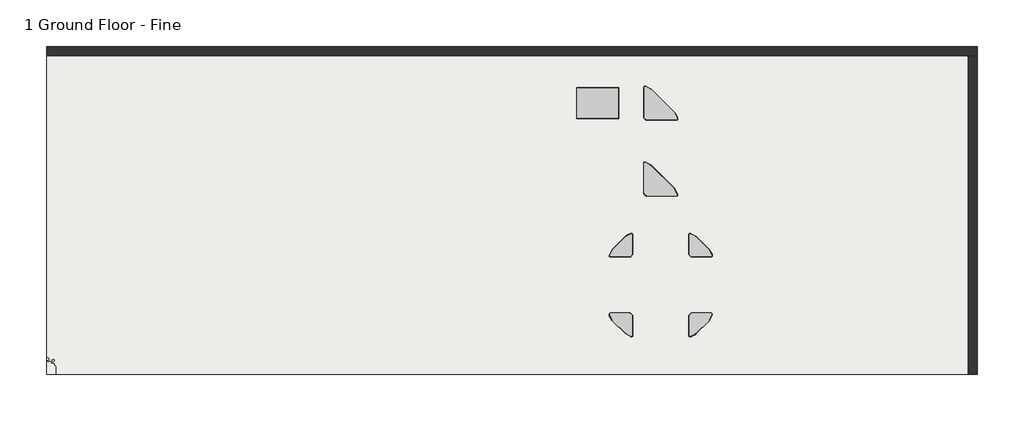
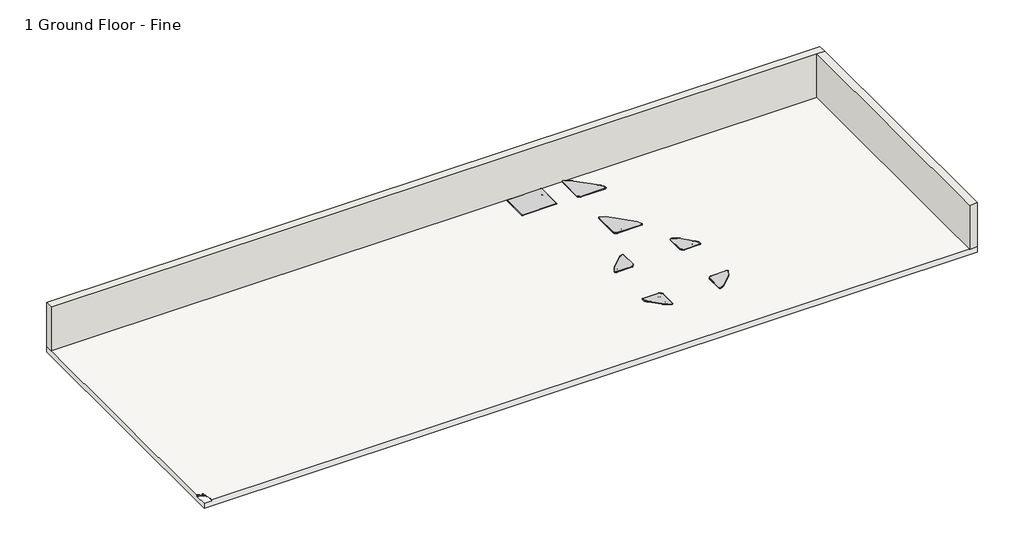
# One storey, incomplete: 7 furniture elements, 2 walls, 1 slab.
"""IFC4 building model written with IfcOpenShell, lengths in millimetres."""

from ifc_helpers import new_model, si_unit, origin, origin_with_axes, place, context, project, spatial, polyline, outline, extrude, faceted_brep, transform, mapped, element, save
from components import furniture_b8dd3662, furniture_872759a8, furniture_2c85a095, furniture_74cbf775

model = new_model("IFC4")

# Units and contexts
model_context = context("Model", 3, world=origin())
ifc_project = project(units=[si_unit("LENGTHUNIT", "METRE", prefix="MILLI")], contexts=[model_context])

# Site, building, storey
site = spatial("IfcSite", under=ifc_project)
building = spatial("IfcBuilding", under=site)
storey = spatial("IfcBuildingStorey", under=building, Name="1 Ground Floor - Fine", Elevation=0.0)

# Furniture
placement = place(None, origin())
furniture_shape = furniture_b8dd3662(model_context)
element("IfcFurniture", 1, ObjectType="Furniture_Wilkhahn_mAx_461-00 : mAx_461-00_1200L x 900W x 730H-Straight with Plastic Lipping", at=placement, inside=storey, context=model_context, shape_type="MappedRepresentation", body=[
    mapped(furniture_shape, transform((-3514.7352929, -9537.5796888, 0.0), x_axis=(1.0, 0.0, 0.0), y_axis=(0.0, 1.0, 0.0), z_axis=(0.0, 0.0, 1.0))),
])
furniture_2_shape = furniture_872759a8(model_context)
element("IfcFurniture", 2, ObjectType="Furniture_Wilkhahn_mAx_461-10 : mAx_461-10_600L x 600W x 730H-Straight", at=placement, inside=storey, context=model_context, shape_type="MappedRepresentation", body=[
    mapped(furniture_2_shape, transform((-724.7352929, -13482.5796888, 0.0), x_axis=(1.0, 0.0, 0.0), y_axis=(0.0, 1.0, 0.0), z_axis=(0.0, 0.0, 1.0))),
])
element("IfcFurniture", 3, ObjectType="Furniture_Wilkhahn_mAx_461-10 : mAx_461-10_600L x 600W x 730H-Straight", at=placement, inside=storey, context=model_context, shape_type="MappedRepresentation", body=[
    mapped(furniture_2_shape, transform((356.2302343, -16543.5452159, 0.0), x_axis=(0.0, -1.0, 0.0), y_axis=(1.0, 0.0, 0.0), z_axis=(0.0, 0.0, 1.0))),
])
element("IfcFurniture", 4, ObjectType="Furniture_Wilkhahn_mAx_461-10 : mAx_461-10_600L x 600W x 730H-Straight", at=placement, inside=storey, context=model_context, shape_type="MappedRepresentation", body=[
    mapped(furniture_2_shape, transform((-2704.7352929, -17624.5107431, 0.0), x_axis=(-1.0, 0.0, 0.0), y_axis=(0.0, -1.0, 0.0), z_axis=(0.0, 0.0, 1.0))),
])
element("IfcFurniture", 5, ObjectType="Furniture_Wilkhahn_mAx_461-10 : mAx_461-10_600L x 600W x 730H-Straight", at=placement, inside=storey, context=model_context, shape_type="MappedRepresentation", body=[
    mapped(furniture_2_shape, transform((-3785.70082, -14563.5452159, 0.0), x_axis=(0.0, 1.0, 0.0), y_axis=(-1.0, 0.0, 0.0), z_axis=(0.0, 0.0, 1.0))),
])
furniture_3_shape = furniture_2c85a095(model_context)
element("IfcFurniture", 6, ObjectType="Furniture_Wilkhahn_mAx_461-10 : mAx_461-10_900L x 900W x 730H-Straight with Plastic Lipping", at=placement, inside=storey, context=model_context, shape_type="MappedRepresentation", body=[
    mapped(furniture_3_shape, transform((-1864.7352929, -9412.5796888, 0.0), x_axis=(1.0, 0.0, 0.0), y_axis=(0.0, 1.0, 0.0), z_axis=(0.0, 0.0, 1.0))),
])
furniture_4_shape = furniture_74cbf775(model_context)
element("IfcFurniture", 7, ObjectType="Furniture_Wilkhahn_mAx_466-10 : mAx_466-10_900L x 900W x 730H-Bullnose", at=placement, inside=storey, context=model_context, shape_type="MappedRepresentation", body=[
    mapped(furniture_4_shape, transform((-1864.7352929, -11587.5796888, 0.0), x_axis=(1.0, 0.0, 0.0), y_axis=(0.0, 1.0, 0.0), z_axis=(0.0, 0.0, 1.0))),
])

# Slab
element("IfcSlab", 8, ObjectType="Generic 200mm", at=placement, inside=storey, context=model_context, shape_type="Brep", body=[
    faceted_brep([(7345.2647071, -8721.7606696, -200.0), (7345.2647071, -18111.7606696, -200.0), (-19284.7352929, -18111.7606696, -200.0), (-19284.7352929, -8721.7606696, -200.0), (7345.2647071, -18111.7606696, 0.0), (7345.2647071, -8721.7606696, 0.0), (-19284.7352929, -8721.7606696, 0.0), (-19284.7352929, -17641.7415826, 0.0), (-19247.7223575, -17620.3721543, 0.0), (-19201.3702024, -17647.1335835, 0.0), (-19201.3702024, -17702.3052169, 0.0), (-19247.7223575, -17729.066646, 0.0), (-19284.7352929, -17707.6972178, 0.0), (-19284.7352929, -17720.7154592, 0.0), (-19237.7403751, -17747.8479876, 0.0), (-19191.7358496, -17721.2872624, 0.0), (-19132.5048451, -17755.4842988, 0.0), (-19132.5048451, -17802.1225285, 0.0), (-19103.2362051, -17785.2242713, 0.0), (-19048.5871808, -17816.7759002, 0.0), (-19048.5871808, -17855.8867441, 0.0), (-19013.9461647, -17875.8867441, 0.0), (-19013.9461647, -18111.7606696, 0.0), (-19097.6159207, -17678.2582527, 0.0), (-19066.8110434, -17696.0434569, 0.0), (-19066.8110434, -17728.6512518, 0.0), (-19097.6159207, -17746.436456, 0.0), (-19128.420798, -17728.6512518, 0.0), (-19128.420798, -17696.0434569, 0.0), (-19013.9461647, -18111.7606696, -25.0), (-19284.7352929, -18111.7606696, -25.0), (-19284.7352929, -17720.704556, -25.0), (-19284.7352929, -17707.6972178, -25.0), (-19284.7352929, -17641.7415826, -25.0), (-19013.9461647, -17875.8867441, -25.0), (-19048.5871808, -17855.8867441, -25.0), (-19048.5871808, -17816.7759002, -25.0), (-19103.2362051, -17785.2242713, -25.0), (-19132.5048451, -17802.1225285, -25.0), (-19132.5048451, -17755.4842988, -25.0), (-19191.7358496, -17721.2872624, -25.0), (-19237.7403751, -17747.8479876, -25.0), (-19201.3702024, -17647.1335835, -25.0), (-19247.7223575, -17620.3721543, -25.0), (-19247.7223575, -17729.066646, -25.0), (-19201.3702024, -17702.3052169, -25.0), (-19066.8110434, -17696.0434569, -25.0), (-19097.6159207, -17678.2582527, -25.0), (-19128.420798, -17696.0434569, -25.0), (-19128.420798, -17728.6512518, -25.0), (-19097.6159207, -17746.436456, -25.0), (-19066.8110434, -17728.6512518, -25.0)], [[[0, 1, 2, 3]], [[4, 5, 6, 7, 8, 9, 10, 11, 12, 13, 14, 15, 16, 17, 18, 19, 20, 21, 22], [23, 24, 25, 26, 27, 28]], [[1, 0, 5, 4]], [[2, 1, 4, 22, 29, 30]], [[3, 2, 30, 31, 13, 12, 32, 33, 7, 6]], [[0, 3, 6, 5]], [[34, 35, 36, 37, 38, 39, 40, 41, 31, 30, 29]], [[42, 43, 33, 32, 44, 45]], [[46, 47, 48, 49, 50, 51]], [[34, 29, 22, 21]], [[35, 34, 21, 20]], [[36, 35, 20, 19]], [[37, 36, 19, 18]], [[38, 37, 18, 17]], [[39, 38, 17, 16]], [[40, 39, 16, 15]], [[41, 40, 15, 14]], [[31, 41, 14, 13]], [[43, 42, 9, 8]], [[33, 43, 8, 7]], [[44, 32, 12, 11]], [[45, 44, 11, 10]], [[42, 45, 10, 9]], [[47, 46, 24, 23]], [[48, 47, 23, 28]], [[49, 48, 28, 27]], [[50, 49, 27, 26]], [[51, 50, 26, 25]], [[46, 51, 25, 24]]]),
])

# Walls
element("IfcWall", 9, ObjectType="Double brick - 270", at=placement, inside=storey, context=model_context, shape_type="Brep", body=[
    faceted_brep([(-19284.7352929, -8991.7606696, 0.0), (7075.2647071, -8991.7606696, 0.0), (7345.2647071, -8991.7606696, 0.0), (7345.2647071, -8991.7606696, 1600.0), (7075.2647071, -8991.7606696, 1600.0), (-19284.7352929, -8991.7606696, 1600.0), (-19284.7352929, -8721.7606696, 0.0), (-19284.7352929, -8721.7606696, 1600.0), (7345.2647071, -8721.7606696, 1600.0), (7345.2647071, -8721.7606696, 0.0)], [[[0, 1, 2, 3, 4, 5]], [[6, 7, 8, 9]], [[2, 1, 0, 6, 9]], [[5, 4, 3, 8, 7]], [[0, 5, 7, 6]], [[3, 2, 9, 8]]]),
])
element("IfcWall", 10, ObjectType="Double brick - 270", at=placement, inside=storey, context=model_context, shape_type="SweptSolid", body=[
    extrude(outline(polyline([(7345.2647071, -8991.7606696), (7345.2647071, -18111.7606696), (7075.2647071, -18111.7606696), (7075.2647071, -8991.7606696), (7345.2647071, -8991.7606696)])), origin_with_axes(), (0.0, 0.0, 1.0), 1600.0),
])

save(model, "model.ifc")
